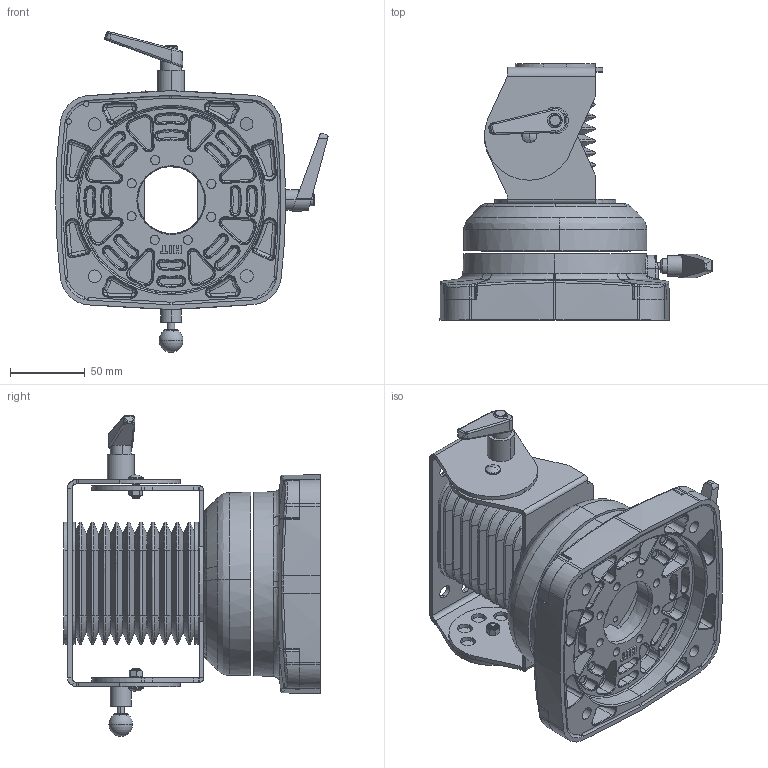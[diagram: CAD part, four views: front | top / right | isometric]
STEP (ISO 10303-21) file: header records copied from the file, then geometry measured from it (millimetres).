
FILE_DESCRIPTION (( 'STEP AP203' ), '1' );
FILE_NAME ('TP.060.3430.STEP', '2026-09-30T09:52:56', ( '' ), ( '' ), 'SwSTEP 2.0', 'SolidWorks 2015', '' );
FILE_SCHEMA (( 'CONFIG_CONTROL_DESIGN' ));
Length unit declared in the file: millimetre
Products named in the file (20): TP.060.600; Part13^Assem10; M6_mushroom head_square neck_m5; 45-4 K; Hit_Körüklü_Aparat_Dönerli_Büküm_Çizim.DXF; Part10^Assem10; TP.060.1634; TP.060.3430; Copy (3) of 6206_300__W_0__3; Part12^Assem10; M5 Fiberli Somun(HDSM05000001); disli parca_3; TP.060.Disk; Part11^Assem10; sýkma yataðý; TP.060.Serrated Washer; yay; kovan_1; Assem10_3; kaucuk koruk_duz ezilmiŸ
Assembly tree (19 placements, depth 3):
  Part10^Assem10
  TP.060.3430
    45-4 K
    sýkma yataðý
    Assem10_3
      kovan_1
      disli parca_3
      Part13^Assem10
      M5 Fiberli Somun(HDSM05000001)
      yay
    M6_mushroom head_square neck_m5  x2
    M5 Fiberli Somun(HDSM05000001)  x2
    kaucuk koruk_duz ezilmiŸ
    Copy (3) of 6206_300__W_0__3
    Hit_Körüklü_Aparat_Dönerli_Büküm_Çizim.DXF
    TP.060.1634
      TP.060.600
      TP.060.Serrated Washer
      TP.060.Disk
  Part12^Assem10
  Part11^Assem10
Bounding box: 182.5 x 172 x 215.07 mm (x, y, z)
Volume: 630477.1 mm3; surface area: 313023.2 mm2
Topology: 18 solids, 26 shells, 2816 faces, 6691 edges, 3969 vertices
Faces by surface type: bspline 1017, plane 520, cone 452, cylinder 443, torus 372, sphere 12
Entity records: 162427 total; most frequent: CARTESIAN_POINT 107714, ORIENTED_EDGE 12822, DIRECTION 7762, EDGE_CURVE 6411, VERTEX_POINT 3827, B_SPLINE_CURVE_WITH_KNOTS 3488, AXIS2_PLACEMENT_3D 3205, EDGE_LOOP 2900
